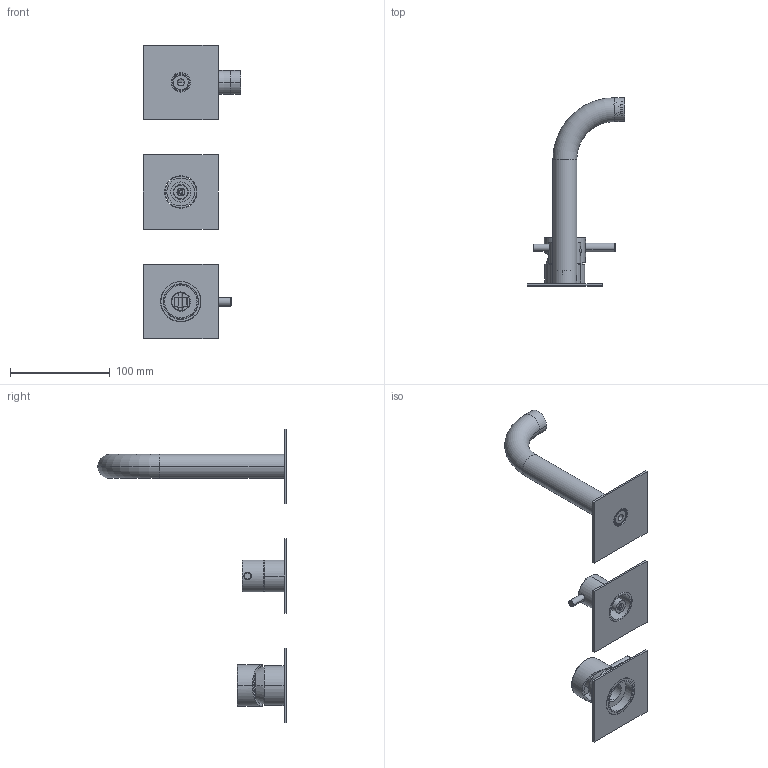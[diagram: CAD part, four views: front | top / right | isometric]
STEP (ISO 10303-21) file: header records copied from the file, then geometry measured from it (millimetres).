
FILE_DESCRIPTION((''),'2;1');
FILE_NAME('3D_SW0001','2024-10-01T15:05:12',('volponeff'),(''),'CREO PARAMETRIC BY PTC INC, 2022014','CREO PARAMETRIC BY PTC INC, 2022014','');
FILE_SCHEMA(('CONFIG_CONTROL_DESIGN'));
Length unit declared in the file: millimetre
Products named in the file (1): 3D_SW0001
Bounding box: 97.5 x 189 x 295 mm (x, y, z)
Volume: 132894.7 mm3; surface area: 120638.7 mm2
Topology: 7 solids, 7 shells, 1206 faces, 3346 edges, 2135 vertices
Faces by surface type: cylinder 472, plane 375, cone 154, bspline 119, torus 78, sphere 8
Entity records: 102835 total; most frequent: CARTESIAN_POINT 73526, ORIENTED_EDGE 6644, DIRECTION 5400, EDGE_CURVE 3322, VERTEX_POINT 2135, AXIS2_PLACEMENT_3D 1988, VECTOR 1424, LINE 1424
